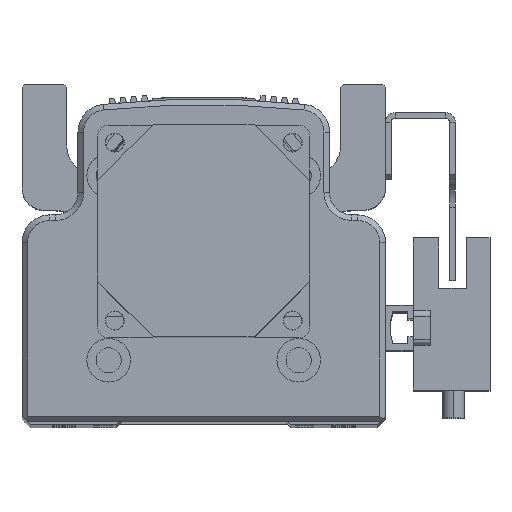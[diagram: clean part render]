
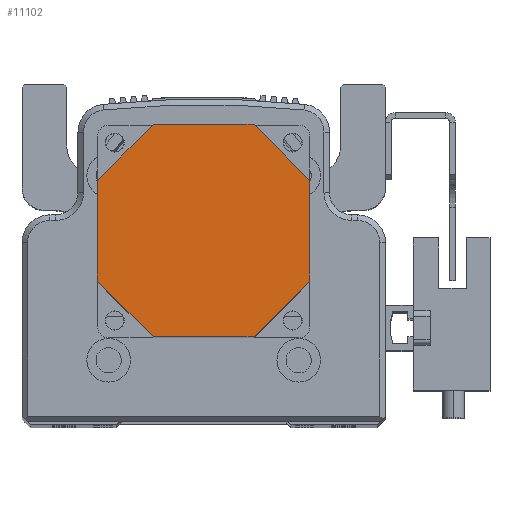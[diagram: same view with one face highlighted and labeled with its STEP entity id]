
A CAD part, top view. The second image highlights one B-rep face of the part: STEP entity #11102.
In plain terms, the highlighted planar face has unit normal (0, 0, 1) as drawn and (0, 0, -1) by its records, which use the part's own axes.
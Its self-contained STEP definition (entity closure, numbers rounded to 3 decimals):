
#1908 = ORIENTED_EDGE ( 'NONE', *, *, #32645, .T. ) ;
#1912 = ORIENTED_EDGE ( 'NONE', *, *, #32646, .T. ) ;
#1924 = ORIENTED_EDGE ( 'NONE', *, *, #32499, .T. ) ;
#1944 = ORIENTED_EDGE ( 'NONE', *, *, #32533, .T. ) ;
#1945 = ORIENTED_EDGE ( 'NONE', *, *, #32634, .T. ) ;
#1949 = ORIENTED_EDGE ( 'NONE', *, *, #32583, .T. ) ;
#1959 = ORIENTED_EDGE ( 'NONE', *, *, #32548, .T. ) ;
#1970 = ORIENTED_EDGE ( 'NONE', *, *, #32541, .T. ) ;
#2439 = AXIS2_PLACEMENT_3D ( 'NONE', #24933, #24922, #24913 ) ;
#9463 = EDGE_LOOP ( 'NONE', ( #1945, #1912, #1970, #1949, #1959, #1924, #1944, #1908 ) ) ;
#11102 = ADVANCED_FACE ( 'NONE', ( #18926 ), #24944, .F. ) ;
#11837 = CARTESIAN_POINT ( 'NONE',  ( 19., 9., -84. ) ) ;
#11852 = DIRECTION ( 'NONE',  ( 0., -1., 0. ) ) ;
#11966 = DIRECTION ( 'NONE',  ( -0.707, -0.707, 0. ) ) ;
#11967 = CARTESIAN_POINT ( 'NONE',  ( 19., -9., -84. ) ) ;
#12010 = DIRECTION ( 'NONE',  ( 0.707, 0.707, 0. ) ) ;
#12019 = CARTESIAN_POINT ( 'NONE',  ( -9., 19., -84. ) ) ;
#12075 = DIRECTION ( 'NONE',  ( 0.707, -0.707, 0. ) ) ;
#12080 = CARTESIAN_POINT ( 'NONE',  ( 19., 9., -84. ) ) ;
#12195 = CARTESIAN_POINT ( 'NONE',  ( 9., 19., -84. ) ) ;
#12203 = DIRECTION ( 'NONE',  ( 1., 0., 0. ) ) ;
#12421 = DIRECTION ( 'NONE',  ( -1., 0., 0. ) ) ;
#12439 = CARTESIAN_POINT ( 'NONE',  ( 9., -19., -84. ) ) ;
#12446 = CARTESIAN_POINT ( 'NONE',  ( -9., -19., -84. ) ) ;
#12462 = DIRECTION ( 'NONE',  ( -0.707, 0.707, 0. ) ) ;
#12492 = DIRECTION ( 'NONE',  ( 0., 1., 0. ) ) ;
#12497 = CARTESIAN_POINT ( 'NONE',  ( -19., 9., -84. ) ) ;
#15792 = CARTESIAN_POINT ( 'NONE',  ( 9., -19., -84. ) ) ;
#17036 = CARTESIAN_POINT ( 'NONE',  ( -9., -19., -84. ) ) ;
#17048 = CARTESIAN_POINT ( 'NONE',  ( -19., 9., -84. ) ) ;
#17124 = CARTESIAN_POINT ( 'NONE',  ( 19., 9., -84. ) ) ;
#17569 = CARTESIAN_POINT ( 'NONE',  ( 19., -9., -84. ) ) ;
#17802 = CARTESIAN_POINT ( 'NONE',  ( -19., -9., -84. ) ) ;
#17886 = VERTEX_POINT ( 'NONE', #17124 ) ;
#17987 = CARTESIAN_POINT ( 'NONE',  ( 9., 19., -84. ) ) ;
#18926 = FACE_OUTER_BOUND ( 'NONE', #9463, .T. ) ;
#20131 = LINE ( 'NONE', #11837, #20147 ) ;
#20147 = VECTOR ( 'NONE', #11852, 1000. ) ;
#20152 = VECTOR ( 'NONE', #11966, 1000. ) ;
#20157 = VECTOR ( 'NONE', #12010, 1000. ) ;
#20166 = VECTOR ( 'NONE', #12075, 1000. ) ;
#20182 = LINE ( 'NONE', #12019, #20157 ) ;
#20195 = LINE ( 'NONE', #11967, #20152 ) ;
#20196 = LINE ( 'NONE', #12080, #20166 ) ;
#20203 = VECTOR ( 'NONE', #12203, 1000. ) ;
#20239 = LINE ( 'NONE', #12195, #20203 ) ;
#20266 = VECTOR ( 'NONE', #12462, 1000. ) ;
#20270 = VECTOR ( 'NONE', #12421, 1000. ) ;
#20289 = LINE ( 'NONE', #12439, #20270 ) ;
#20290 = VECTOR ( 'NONE', #12492, 1000. ) ;
#20303 = LINE ( 'NONE', #12497, #20290 ) ;
#20309 = LINE ( 'NONE', #12446, #20266 ) ;
#22953 = VERTEX_POINT ( 'NONE', #17987 ) ;
#22972 = CARTESIAN_POINT ( 'NONE',  ( -9., 19., -84. ) ) ;
#24913 = DIRECTION ( 'NONE',  ( 1., 0., 0. ) ) ;
#24922 = DIRECTION ( 'NONE',  ( 0., 0., 1. ) ) ;
#24933 = CARTESIAN_POINT ( 'NONE',  ( 0., 0., -84. ) ) ;
#24944 = PLANE ( 'NONE',  #2439 ) ;
#29086 = VERTEX_POINT ( 'NONE', #17569 ) ;
#29091 = VERTEX_POINT ( 'NONE', #17802 ) ;
#29098 = VERTEX_POINT ( 'NONE', #22972 ) ;
#29114 = VERTEX_POINT ( 'NONE', #17048 ) ;
#29118 = VERTEX_POINT ( 'NONE', #17036 ) ;
#29140 = VERTEX_POINT ( 'NONE', #15792 ) ;
#32499 = EDGE_CURVE ( 'NONE', #17886, #29086, #20131, .T. ) ;
#32533 = EDGE_CURVE ( 'NONE', #29086, #29140, #20195, .T. ) ;
#32541 = EDGE_CURVE ( 'NONE', #29114, #29098, #20182, .T. ) ;
#32548 = EDGE_CURVE ( 'NONE', #22953, #17886, #20196, .T. ) ;
#32583 = EDGE_CURVE ( 'NONE', #29098, #22953, #20239, .T. ) ;
#32634 = EDGE_CURVE ( 'NONE', #29118, #29091, #20309, .T. ) ;
#32645 = EDGE_CURVE ( 'NONE', #29140, #29118, #20289, .T. ) ;
#32646 = EDGE_CURVE ( 'NONE', #29091, #29114, #20303, .T. ) ;
